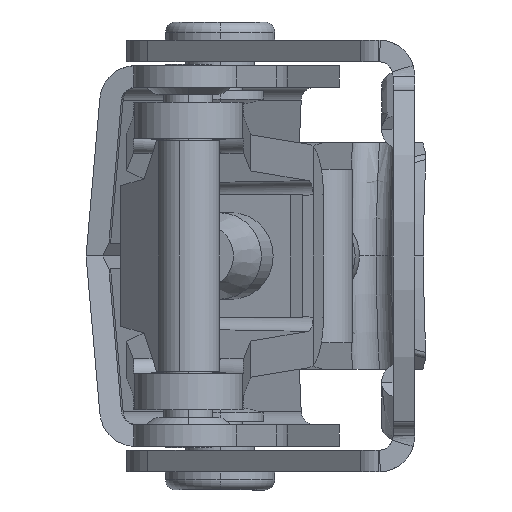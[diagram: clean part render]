
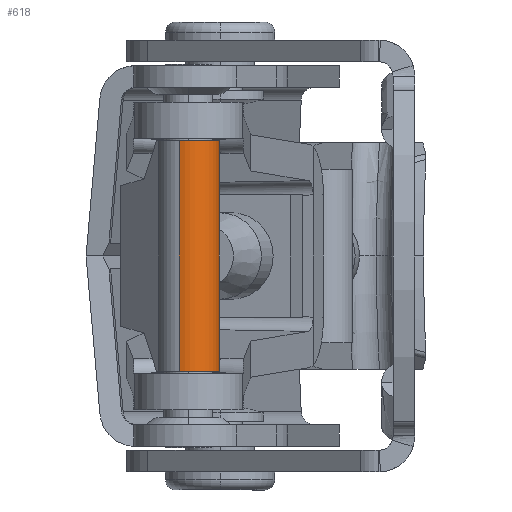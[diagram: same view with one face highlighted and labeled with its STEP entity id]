
A CAD part, left-side view. The second image highlights one B-rep face of the part: STEP entity #618.
In plain terms, the highlighted cylindrical face has radius 2.125 mm (diameter 4.25 mm), a partial arc.
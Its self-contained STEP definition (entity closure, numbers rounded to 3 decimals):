
#514 = ORIENTED_EDGE ( 'NONE', *, *, #515, .F. ) ;
#515 = EDGE_CURVE ( 'NONE', #641, #627, #3893, .T. ) ;
#528 = EDGE_CURVE ( 'NONE', #1597, #641, #4103, .T. ) ;
#585 = EDGE_LOOP ( 'NONE', ( #587, #605, #634, #514 ) ) ;
#587 = ORIENTED_EDGE ( 'NONE', *, *, #528, .F. ) ;
#605 = ORIENTED_EDGE ( 'NONE', *, *, #650, .T. ) ;
#618 = ADVANCED_FACE ( 'NONE', ( #4208 ), #4206, .T. ) ;
#627 = VERTEX_POINT ( 'NONE', #4203 ) ;
#634 = ORIENTED_EDGE ( 'NONE', *, *, #635, .T. ) ;
#635 = EDGE_CURVE ( 'NONE', #647, #627, #4185, .T. ) ;
#641 = VERTEX_POINT ( 'NONE', #4176 ) ;
#647 = VERTEX_POINT ( 'NONE', #4256 ) ;
#650 = EDGE_CURVE ( 'NONE', #1597, #647, #4250, .T. ) ;
#1597 = VERTEX_POINT ( 'NONE', #6683 ) ;
#3886 = DIRECTION ( 'NONE',  ( 0.955, -0.295, 0. ) ) ;
#3887 = DIRECTION ( 'NONE',  ( 0., 0., -1. ) ) ;
#3889 = CARTESIAN_POINT ( 'NONE',  ( -6.5, 15.686, -8. ) ) ;
#3891 = AXIS2_PLACEMENT_3D ( 'NONE', #3889, #3887, #3886 ) ;
#3893 = CIRCLE ( 'NONE', #3891, 2.125 ) ;
#3960 = CARTESIAN_POINT ( 'NONE',  ( -4.47, 15.059, 8. ) ) ;
#4008 = DIRECTION ( 'NONE',  ( 0., 0., -1. ) ) ;
#4015 = VECTOR ( 'NONE', #4008, 1000. ) ;
#4103 = LINE ( 'NONE', #3960, #4015 ) ;
#4176 = CARTESIAN_POINT ( 'NONE',  ( -4.47, 15.059, -8. ) ) ;
#4182 = DIRECTION ( 'NONE',  ( 0., 0., -1. ) ) ;
#4183 = VECTOR ( 'NONE', #4182, 1000. ) ;
#4184 = CARTESIAN_POINT ( 'NONE',  ( -8.53, 16.312, 8. ) ) ;
#4185 = LINE ( 'NONE', #4184, #4183 ) ;
#4203 = CARTESIAN_POINT ( 'NONE',  ( -8.53, 16.312, -8. ) ) ;
#4206 = CYLINDRICAL_SURFACE ( 'NONE', #4215, 2.125 ) ;
#4208 = FACE_OUTER_BOUND ( 'NONE', #585, .T. ) ;
#4212 = DIRECTION ( 'NONE',  ( -0.955, 0.295, 0. ) ) ;
#4213 = DIRECTION ( 'NONE',  ( 0., 0., -1. ) ) ;
#4214 = CARTESIAN_POINT ( 'NONE',  ( -6.5, 15.686, 8. ) ) ;
#4215 = AXIS2_PLACEMENT_3D ( 'NONE', #4214, #4213, #4212 ) ;
#4246 = DIRECTION ( 'NONE',  ( 0.955, -0.295, 0. ) ) ;
#4247 = DIRECTION ( 'NONE',  ( 0., 0., -1. ) ) ;
#4248 = CARTESIAN_POINT ( 'NONE',  ( -6.5, 15.686, 8. ) ) ;
#4249 = AXIS2_PLACEMENT_3D ( 'NONE', #4248, #4247, #4246 ) ;
#4250 = CIRCLE ( 'NONE', #4249, 2.125 ) ;
#4256 = CARTESIAN_POINT ( 'NONE',  ( -8.53, 16.312, 8. ) ) ;
#6683 = CARTESIAN_POINT ( 'NONE',  ( -4.47, 15.059, 8. ) ) ;
